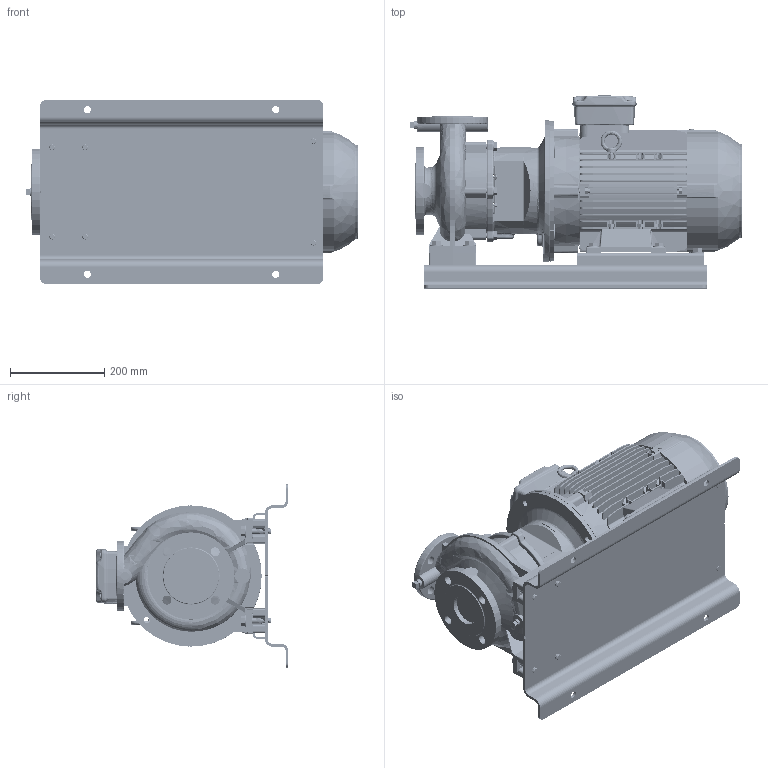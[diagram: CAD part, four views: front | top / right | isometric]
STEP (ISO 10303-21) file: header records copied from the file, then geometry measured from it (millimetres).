
FILE_DESCRIPTION (( 'STEP AP214' ), '1' );
FILE_NAME ('GSD2 40-160_5.5 & 7.5_(132S)_W21_BP.STEP', '2024-03-28T04:14:20', ( '' ), ( '' ), 'SwSTEP 2.0', 'SolidWorks 2019', '' );
FILE_SCHEMA (( 'AUTOMOTIVE_DESIGN' ));
Length unit declared in the file: inch
Products named in the file (22): Parametric bolt and washer_SFT-A253B-3.STEP; 40-160-132S.STEP; Parametric bolt and washer_SFT-A309B-1.STEP; Parametric bolt and washer_SFT-A301B.STEP; Parametric bolt and washer_SFT-A253B-1.STEP; Parametric bolt and washer_SFT-A301B-1.STEP; Parametric bolt and washer_SFT-A253B-2.STEP; Parametric Flat Washer_M10.STEP; 132S ALIE3W21T_B35.STEP; 140_178 x 25 - CGSDA-5240.STEP; N3S3 GSDA-335 F1-1832907-00.STEP; Parametric bolt_SFT-A301B.STEP; Parametric bolt and washer_SFT-A253B.STEP; GSD2  40-160_5.5 & 7.5_(132S)_W21_BP; Parametric bolt_SFT-A253B.STEP; Parametric bolt and washer_SFT-A309B.STEP; Parametric bolt and washer_SFT-A309B-3.STEP; Parametric bolt_SFT-A309B.STEP; Parametric Flat Washer_M12.STEP; Parametric bolt and washer_SFT-A309B-2.STEP; CGS11-5301_2_3_4_5_CGS11-5302.STEP
Assembly tree (38 placements, depth 4):
  GSD2  40-160_5.5 & 7.5_(132S)_W21_BP
    40-160-132S.STEP
      Parametric bolt and washer_SFT-A309B.STEP
        Parametric bolt_SFT-A309B.STEP
        Parametric Flat Washer_M12.STEP
      Parametric bolt and washer_SFT-A309B-1.STEP
        Parametric bolt_SFT-A309B.STEP
        Parametric Flat Washer_M12.STEP
      Parametric bolt and washer_SFT-A309B-2.STEP
        Parametric bolt_SFT-A309B.STEP
        Parametric Flat Washer_M12.STEP
      Parametric bolt and washer_SFT-A309B-3.STEP
        Parametric bolt_SFT-A309B.STEP
        Parametric Flat Washer_M12.STEP
      Parametric bolt and washer_SFT-A301B.STEP
        Parametric bolt_SFT-A301B.STEP
        Parametric Flat Washer_M12.STEP
      Parametric bolt and washer_SFT-A301B-1.STEP
        Parametric bolt_SFT-A301B.STEP
        Parametric Flat Washer_M12.STEP
      Parametric bolt and washer_SFT-A253B.STEP
        Parametric bolt_SFT-A253B.STEP
        Parametric Flat Washer_M10.STEP
      Parametric bolt and washer_SFT-A253B-1.STEP
        Parametric bolt_SFT-A253B.STEP
        Parametric Flat Washer_M10.STEP
      Parametric bolt and washer_SFT-A253B-2.STEP
        Parametric bolt_SFT-A253B.STEP
        Parametric Flat Washer_M10.STEP
      Parametric bolt and washer_SFT-A253B-3.STEP
        Parametric bolt_SFT-A253B.STEP
        Parametric Flat Washer_M10.STEP
      40-160-132S.STEP
      N3S3 GSDA-335 F1-1832907-00.STEP
      CGS11-5301_2_3_4_5_CGS11-5302.STEP  x2
      140_178 x 25 - CGSDA-5240.STEP  x2
      132S ALIE3W21T_B35.STEP
Bounding box: 705.45 x 410 x 390 mm (x, y, z)
Volume: 28517716 mm3; surface area: 2452132.7 mm2
Topology: 39 solids, 39 shells, 4902 faces, 12829 edges, 8344 vertices
Faces by surface type: plane 2924, cylinder 1176, torus 305, bspline 250, cone 215, sphere 32
Entity records: 170018 total; most frequent: CARTESIAN_POINT 61264, ORIENTED_EDGE 23252, DIRECTION 21149, EDGE_CURVE 11626, VECTOR 7785, LINE 7785, VERTEX_POINT 7571, AXIS2_PLACEMENT_3D 6682
